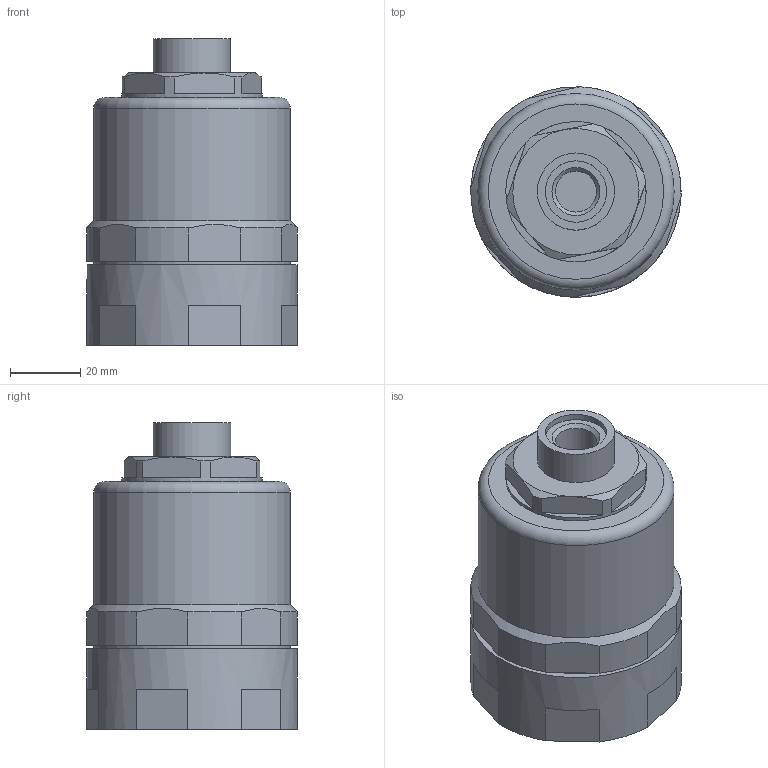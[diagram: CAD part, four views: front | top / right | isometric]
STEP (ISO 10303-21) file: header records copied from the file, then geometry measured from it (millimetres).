
FILE_DESCRIPTION(('STEP AP203'),'1');
FILE_NAME(').stp','2020-04-08T08:19:10',(' '),(' '),'Spatial InterOp 3D',' ',' ');
FILE_SCHEMA(('CONFIG_CONTROL_DESIGN'));
Length unit declared in the file: millimetre
Products named in the file (1): 1
Bounding box: 59.97 x 59.96 x 87.5 mm (x, y, z)
Volume: 112891.9 mm3; surface area: 27225.5 mm2
Topology: 1 solids, 1 shells, 75 faces, 179 edges, 115 vertices
Faces by surface type: plane 47, cylinder 15, cone 11, torus 2
Full cylindrical faces by diameter (mm): 11.7 x1, 17.5 x1, 22 x1, 38.8 x1, 40 x1, 46 x1, 56 x2, 60 x1
Entity records: 2194 total; most frequent: CARTESIAN_POINT 468, DIRECTION 358, ORIENTED_EDGE 320, EDGE_CURVE 160, AXIS2_PLACEMENT_3D 140, VERTEX_POINT 112, EDGE_LOOP 100, FACE_OUTER_BOUND 86
